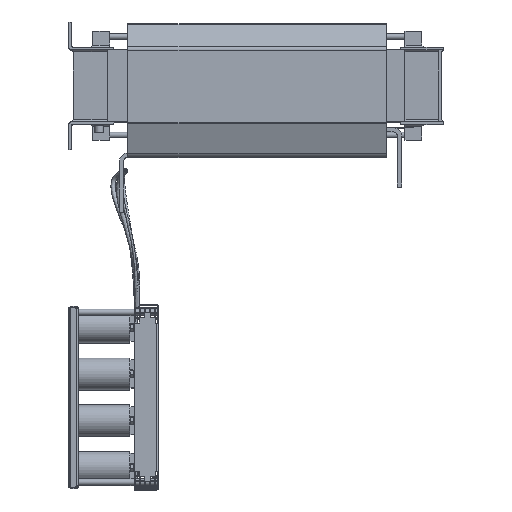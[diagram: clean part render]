
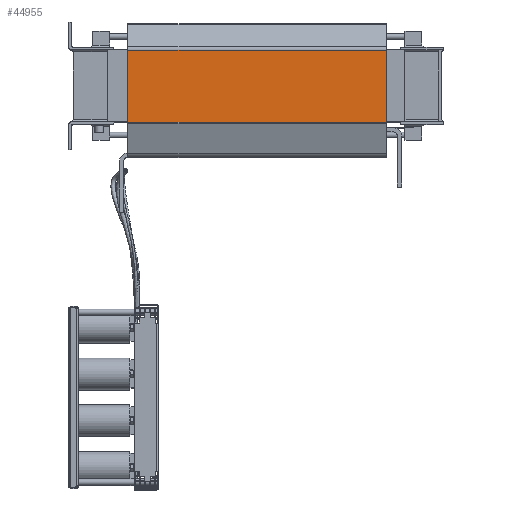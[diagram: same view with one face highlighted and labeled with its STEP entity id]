
A CAD part, top view. The second image highlights one B-rep face of the part: STEP entity #44955.
In plain terms, the highlighted planar face has unit normal (0, 0, 1).
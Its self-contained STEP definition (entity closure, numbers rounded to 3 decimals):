
#34861=CARTESIAN_POINT('',(-819.439,-122.086,572.552));
#34862=VERTEX_POINT('',#34861);
#34870=CARTESIAN_POINT('',(-819.439,47.914,572.552));
#34871=VERTEX_POINT('',#34870);
#34872=CARTESIAN_POINT('',(-819.439,47.914,572.552));
#34873=DIRECTION('',(0.0,-1.0,0.0));
#34874=VECTOR('',#34873,170.);
#34875=LINE('',#34872,#34874);
#34876=EDGE_CURVE('',#34871,#34862,#34875,.T.);
#41344=CARTESIAN_POINT('',(-209.439,47.914,572.552));
#41345=VERTEX_POINT('',#41344);
#41353=CARTESIAN_POINT('',(-209.439,-122.086,572.552));
#41354=VERTEX_POINT('',#41353);
#41355=CARTESIAN_POINT('',(-209.439,-122.086,572.552));
#41356=DIRECTION('',(0.0,1.0,0.0));
#41357=VECTOR('',#41356,170.);
#41358=LINE('',#41355,#41357);
#41359=EDGE_CURVE('',#41354,#41345,#41358,.T.);
#44928=CARTESIAN_POINT('',(-209.439,-122.086,572.552));
#44929=DIRECTION('',(-1.0,0.0,0.0));
#44930=VECTOR('',#44929,610.0);
#44931=LINE('',#44928,#44930);
#44932=EDGE_CURVE('',#41354,#34862,#44931,.T.);
#44939=CARTESIAN_POINT('',(-514.439,-122.086,572.552));
#44940=DIRECTION('',(0.0,0.0,1.0));
#44941=DIRECTION('',(1.0,0.0,0.0));
#44942=AXIS2_PLACEMENT_3D('',#44939,#44940,#44941);
#44943=PLANE('',#44942);
#44944=ORIENTED_EDGE('',*,*,#41359,.T.);
#44945=CARTESIAN_POINT('',(-209.439,47.914,572.552));
#44946=DIRECTION('',(-1.0,0.0,0.0));
#44947=VECTOR('',#44946,610.0);
#44948=LINE('',#44945,#44947);
#44949=EDGE_CURVE('',#41345,#34871,#44948,.T.);
#44950=ORIENTED_EDGE('',*,*,#44949,.T.);
#44951=ORIENTED_EDGE('',*,*,#34876,.T.);
#44952=ORIENTED_EDGE('',*,*,#44932,.F.);
#44953=EDGE_LOOP('',(#44944,#44950,#44951,#44952));
#44954=FACE_OUTER_BOUND('',#44953,.T.);
#44955=ADVANCED_FACE('',(#44954),#44943,.T.);
